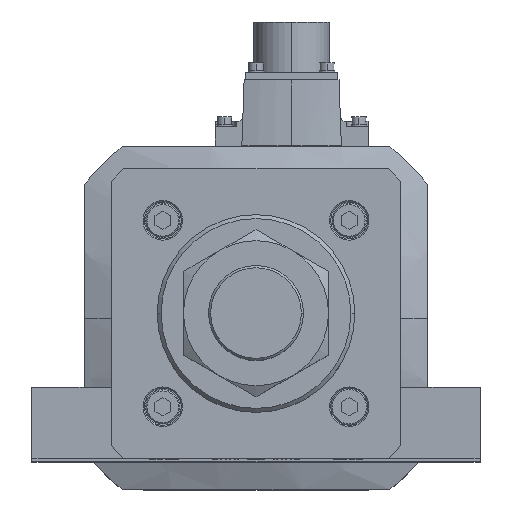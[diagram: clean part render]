
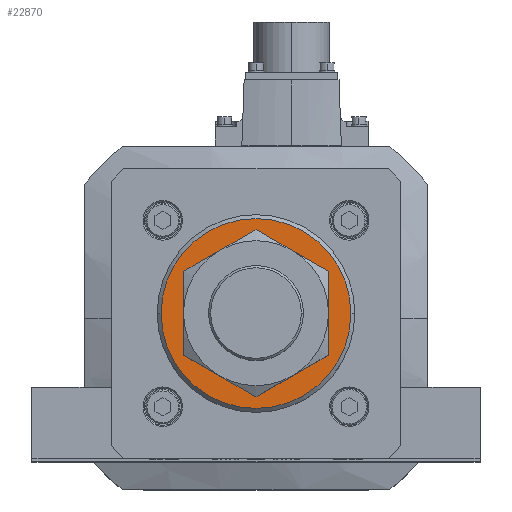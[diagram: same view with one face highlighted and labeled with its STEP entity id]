
A CAD part, top view. The second image highlights one B-rep face of the part: STEP entity #22870.
In plain terms, the highlighted planar face has unit normal (0, 0, 1).
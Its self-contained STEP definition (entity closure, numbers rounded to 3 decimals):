
#793 = DIRECTION ( 'NONE',  ( 0., 0., 1. ) ) ;
#1017 = EDGE_CURVE ( 'NONE', #26678, #19861, #23907, .T. ) ;
#1767 = CARTESIAN_POINT ( 'NONE',  ( -23., 0., 746. ) ) ;
#1865 = DIRECTION ( 'NONE',  ( 0., 0., 1. ) ) ;
#3766 = AXIS2_PLACEMENT_3D ( 'NONE', #5399, #31726, #8456 ) ;
#4969 = AXIS2_PLACEMENT_3D ( 'NONE', #35894, #29982, #26562 ) ;
#5399 = CARTESIAN_POINT ( 'NONE',  ( 0., 0., 746. ) ) ;
#5631 = CARTESIAN_POINT ( 'NONE',  ( 23., 0., 746. ) ) ;
#6933 = AXIS2_PLACEMENT_3D ( 'NONE', #17922, #32099, #12571 ) ;
#8456 = DIRECTION ( 'NONE',  ( 1., 0., 0. ) ) ;
#9429 = CARTESIAN_POINT ( 'NONE',  ( 0., 0., 746. ) ) ;
#11933 = EDGE_LOOP ( 'NONE', ( #27182, #30387 ) ) ;
#12571 = DIRECTION ( 'NONE',  ( 1., 0., 0. ) ) ;
#14477 = FACE_OUTER_BOUND ( 'NONE', #23880, .T. ) ;
#15420 = PLANE ( 'NONE',  #15655 ) ;
#15494 = CIRCLE ( 'NONE', #3766, 23. ) ;
#15655 = AXIS2_PLACEMENT_3D ( 'NONE', #9429, #793, #29753 ) ;
#17104 = VERTEX_POINT ( 'NONE', #1767 ) ;
#17231 = FACE_BOUND ( 'NONE', #11933, .T. ) ;
#17922 = CARTESIAN_POINT ( 'NONE',  ( 0., 0., 746. ) ) ;
#18874 = EDGE_CURVE ( 'NONE', #19861, #26678, #27117, .T. ) ;
#19861 = VERTEX_POINT ( 'NONE', #26086 ) ;
#21794 = ORIENTED_EDGE ( 'NONE', *, *, #18874, .T. ) ;
#22870 = ADVANCED_FACE ( 'NONE', ( #17231, #14477 ), #15420, .T. ) ;
#23880 = EDGE_LOOP ( 'NONE', ( #21794, #26413 ) ) ;
#23907 = CIRCLE ( 'NONE', #33980, 36. ) ;
#25102 = CARTESIAN_POINT ( 'NONE',  ( 0., 0., 746. ) ) ;
#26086 = CARTESIAN_POINT ( 'NONE',  ( -36., 0., 746. ) ) ;
#26413 = ORIENTED_EDGE ( 'NONE', *, *, #1017, .T. ) ;
#26562 = DIRECTION ( 'NONE',  ( 1., 0., 0. ) ) ;
#26583 = EDGE_CURVE ( 'NONE', #17104, #34348, #15494, .T. ) ;
#26678 = VERTEX_POINT ( 'NONE', #35449 ) ;
#27117 = CIRCLE ( 'NONE', #4969, 36. ) ;
#27182 = ORIENTED_EDGE ( 'NONE', *, *, #34869, .T. ) ;
#28428 = DIRECTION ( 'NONE',  ( 1., 0., 0. ) ) ;
#29753 = DIRECTION ( 'NONE',  ( 1., 0., 0. ) ) ;
#29982 = DIRECTION ( 'NONE',  ( 0., 0., 1. ) ) ;
#30387 = ORIENTED_EDGE ( 'NONE', *, *, #26583, .T. ) ;
#31726 = DIRECTION ( 'NONE',  ( 0., 0., -1. ) ) ;
#32099 = DIRECTION ( 'NONE',  ( 0., 0., -1. ) ) ;
#33980 = AXIS2_PLACEMENT_3D ( 'NONE', #25102, #1865, #28428 ) ;
#34348 = VERTEX_POINT ( 'NONE', #5631 ) ;
#34869 = EDGE_CURVE ( 'NONE', #34348, #17104, #36834, .T. ) ;
#35449 = CARTESIAN_POINT ( 'NONE',  ( 36., 0., 746. ) ) ;
#35894 = CARTESIAN_POINT ( 'NONE',  ( 0., 0., 746. ) ) ;
#36834 = CIRCLE ( 'NONE', #6933, 23. ) ;
